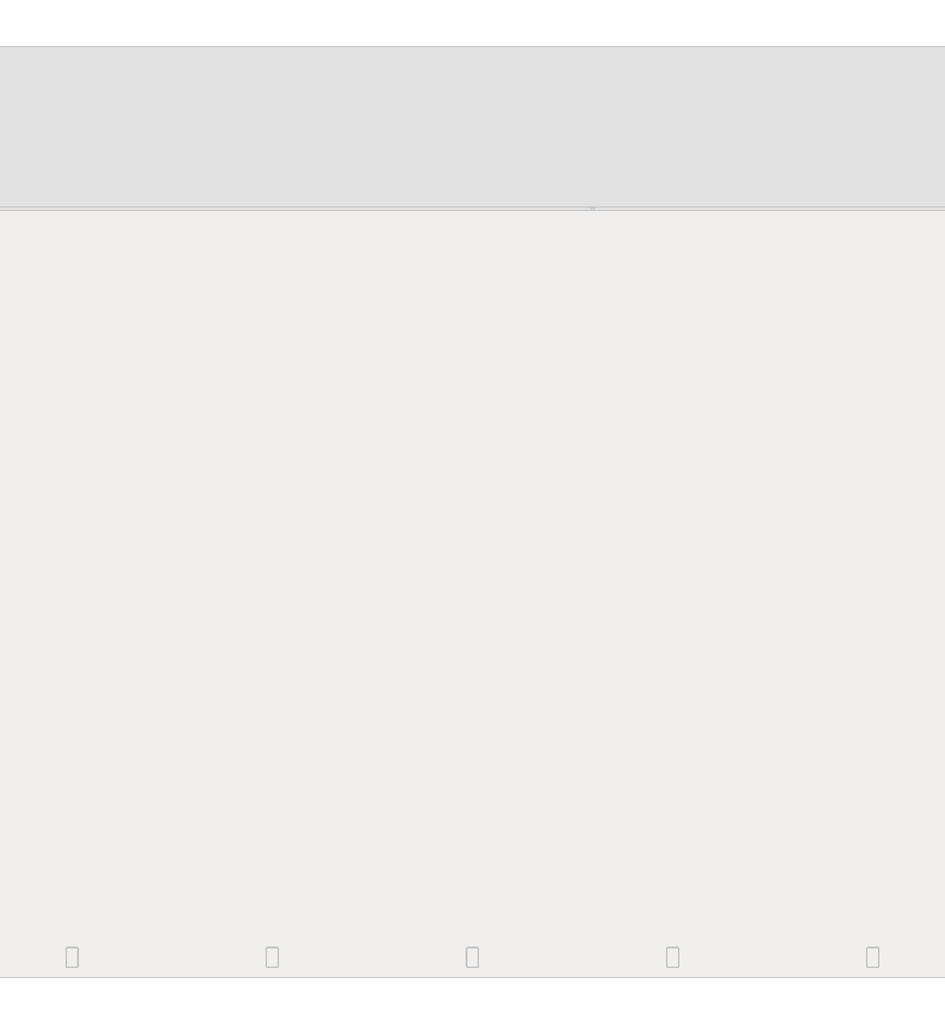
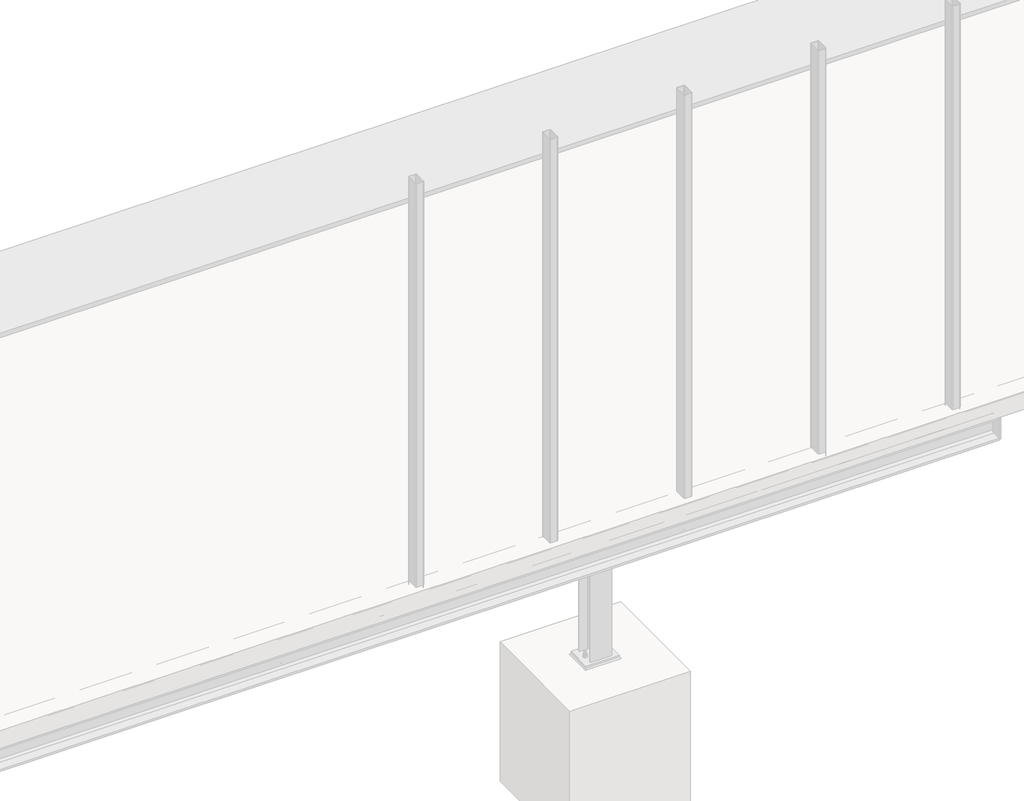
# One storey, part 25 of 36: 1 assembly.
"""IFC4 building model written with IfcOpenShell, lengths in millimetres."""

from ifc_helpers import new_model, si_unit, point, frame, frame_2d, origin, place, context, project, spatial, polyline, circle_curve, trimmed, segment, composite_curve, outline, extrude, element, save

model = new_model("IFC4")

# Units and contexts
model_context = context("Model", 3, world=origin())
ifc_project = project(units=[si_unit("LENGTHUNIT", "METRE", prefix="MILLI")], contexts=[model_context])

# Site, building, storey
site = spatial("IfcSite", under=ifc_project)
building = spatial("IfcBuilding", under=site)
storey = spatial("IfcBuildingStorey", under=building, Name="Základy", Elevation=-1200.0)

# Assembly
placement = place(None, origin())
element("IfcElementAssembly", 1, at=placement, inside=storey, context=model_context, shape_type="SweptSolid", body=[
    extrude(outline(composite_curve([segment(polyline([(-340.0, 6140.0), (-326.0, 6140.0), (-326.0, 6069.25)]), True, "CONTINUOUS"), segment(trimmed(circle_curve(frame_2d((-311.0, 6069.25)), 15.0), [point((-326.0, 6069.25))], [point((-311.0, 6054.25))], True, "CARTESIAN"), True, "CONTINUOUS"), segment(polyline([(-311.0, 6054.25), (-189.0, 6054.25)]), True, "CONTINUOUS"), segment(trimmed(circle_curve(frame_2d((-189.0, 6069.25)), 15.0), [point((-189.0, 6054.25))], [point((-174.0, 6069.25))], True, "CARTESIAN"), True, "CONTINUOUS"), segment(polyline([(-174.0, 6069.25), (-174.0, 6140.0), (-160.0, 6140.0), (-160.0, 5960.0), (-174.0, 5960.0), (-174.0, 6030.75)]), True, "CONTINUOUS"), segment(trimmed(circle_curve(frame_2d((-189.0, 6030.75)), 15.0), [point((-174.0, 6030.75))], [point((-189.0, 6045.75))], True, "CARTESIAN"), True, "CONTINUOUS"), segment(polyline([(-189.0, 6045.75), (-311.0, 6045.75)]), True, "CONTINUOUS"), segment(trimmed(circle_curve(frame_2d((-311.0, 6030.75)), 15.0), [point((-311.0, 6045.75))], [point((-326.0, 6030.75))], True, "CARTESIAN"), True, "CONTINUOUS"), segment(polyline([(-326.0, 6030.75), (-326.0, 5960.0), (-340.0, 5960.0), (-340.0, 6140.0)]), True, "CONTINUOUS")], self_intersect=False)), frame((0.0, 210.0, 0.0), z_axis=(0.0, 1.0, 0.0), x_axis=(0.0, 0.0, 1.0)), (0.0, 0.0, 1.0), 3557.0),
    extrude(outline(polyline([(5960.0, 3775.0), (6140.0, 3775.0), (6140.0, 3767.0), (5960.0, 3767.0), (5960.0, 3775.0)])), frame((0.0, 0.0, -316.0), z_axis=(0.0, 0.0, 1.0), x_axis=(1.0, 0.0, 0.0)), (0.0, 0.0, 1.0), 132.0),
    extrude(outline(polyline([(5950.0, 1200.0), (5950.0, 1320.0), (5960.0, 1320.0), (5960.0, 1200.0), (5950.0, 1200.0)])), frame((0.0, 0.0, -332.0), z_axis=(0.0, 0.0, 1.0), x_axis=(1.0, 0.0, 0.0)), (0.0, 0.0, 1.0), 164.0),
    extrude(outline(polyline([(6140.0, 1200.0), (6140.0, 1320.0), (6150.0, 1320.0), (6150.0, 1200.0), (6140.0, 1200.0)])), frame((0.0, 0.0, -332.0), z_axis=(0.0, 0.0, 1.0), x_axis=(1.0, 0.0, 0.0)), (0.0, 0.0, 1.0), 164.0),
    extrude(outline(composite_curve([segment(polyline([(-174.0, 6140.0), (-174.0, 6079.5)]), True, "CONTINUOUS"), segment(trimmed(circle_curve(frame_2d((-174.0, 6054.5)), 25.0), [point((-174.0, 6079.5))], [point((-199.0, 6054.5))], True, "CARTESIAN"), True, "CONTINUOUS"), segment(polyline([(-199.0, 6054.5), (-301.0, 6054.5)]), True, "CONTINUOUS"), segment(trimmed(circle_curve(frame_2d((-326.0, 6054.5)), 25.0), [point((-301.0, 6054.5))], [point((-326.0, 6079.5))], True, "CARTESIAN"), True, "CONTINUOUS"), segment(polyline([(-326.0, 6079.5), (-326.0, 6140.0), (-174.0, 6140.0)]), True, "CONTINUOUS")], self_intersect=False)), frame((0.0, 1256.0, 0.0), z_axis=(0.0, 1.0, 0.0), x_axis=(0.0, 0.0, 1.0)), (0.0, 0.0, 1.0), 8.0),
    extrude(outline(composite_curve([segment(polyline([(-174.0, 5960.0), (-326.0, 5960.0), (-326.0, 6020.5)]), True, "CONTINUOUS"), segment(trimmed(circle_curve(frame_2d((-326.0, 6045.5)), 25.0), [point((-326.0, 6020.5))], [point((-301.0, 6045.5))], True, "CARTESIAN"), True, "CONTINUOUS"), segment(polyline([(-301.0, 6045.5), (-199.0, 6045.5)]), True, "CONTINUOUS"), segment(trimmed(circle_curve(frame_2d((-174.0, 6045.5)), 25.0), [point((-199.0, 6045.5))], [point((-174.0, 6020.5))], True, "CARTESIAN"), True, "CONTINUOUS"), segment(polyline([(-174.0, 6020.5), (-174.0, 5960.0)]), True, "CONTINUOUS")], self_intersect=False)), frame((0.0, 1256.0, 0.0), z_axis=(0.0, 1.0, 0.0), x_axis=(0.0, 0.0, 1.0)), (0.0, 0.0, 1.0), 8.0),
    extrude(outline(polyline([(5960.0, 210.0), (6140.0, 210.0), (6140.0, 200.0), (5960.0, 200.0), (5960.0, 210.0)])), frame((0.0, 0.0, -332.0), z_axis=(0.0, 0.0, 1.0), x_axis=(1.0, 0.0, 0.0)), (0.0, 0.0, 1.0), 164.0),
    extrude(outline(composite_curve([segment(trimmed(circle_curve(frame_2d((1230.0, -225.0)), 6.5), [point((1230.0, -231.5))], [point((1230.0, -218.5))], False, "CARTESIAN"), True, "CONTINUOUS"), segment(trimmed(circle_curve(frame_2d((1230.0, -225.0)), 6.5), [point((1230.0, -218.5))], [point((1230.0, -231.5))], False, "CARTESIAN"), True, "CONTINUOUS")], self_intersect=False)), frame((5949.9, 0.0, 0.0), z_axis=(1.0, 0.0, 0.0), x_axis=(0.0, 1.0, 0.0)), (0.0, 0.0, 1.0), 10.0),
    extrude(outline(polyline([(1230.0, -235.3923048), (1221.0, -230.1961524), (1221.0, -219.8038476), (1230.0, -214.6076952), (1239.0, -219.8038476), (1239.0, -230.1961524), (1230.0, -235.3923048)])), frame((5962.5, 0.0, 0.0), z_axis=(1.0, 0.0, 0.0), x_axis=(0.0, 1.0, 0.0)), (0.0, 0.0, 1.0), 7.5),
    extrude(outline(composite_curve([segment(trimmed(circle_curve(frame_2d((1230.0, -225.0)), 6.0), [point((1230.0, -231.0))], [point((1230.0, -219.0))], False, "CARTESIAN"), True, "CONTINUOUS"), segment(trimmed(circle_curve(frame_2d((1230.0, -225.0)), 6.0), [point((1230.0, -219.0))], [point((1230.0, -231.0))], False, "CARTESIAN"), True, "CONTINUOUS")], self_intersect=False)), frame((5922.5, 0.0, 0.0), z_axis=(1.0, 0.0, 0.0), x_axis=(0.0, 1.0, 0.0)), (0.0, 0.0, 1.0), 40.0),
    extrude(outline(composite_curve([segment(trimmed(circle_curve(frame_2d((1230.0, -225.0)), 12.0), [point((1230.0, -237.0))], [point((1230.0, -213.0))], False, "CARTESIAN"), True, "CONTINUOUS"), segment(trimmed(circle_curve(frame_2d((1230.0, -225.0)), 12.0), [point((1230.0, -213.0))], [point((1230.0, -237.0))], False, "CARTESIAN"), True, "CONTINUOUS")], self_intersect=False)), frame((5960.0, 0.0, 0.0), z_axis=(1.0, 0.0, 0.0), x_axis=(0.0, 1.0, 0.0)), (0.0, 0.0, 1.0), 2.5),
    extrude(outline(composite_curve([segment(trimmed(circle_curve(frame_2d((1230.0, -225.0)), 12.0), [point((1230.0, -237.0))], [point((1230.0, -213.0))], False, "CARTESIAN"), True, "CONTINUOUS"), segment(trimmed(circle_curve(frame_2d((1230.0, -225.0)), 12.0), [point((1230.0, -213.0))], [point((1230.0, -237.0))], False, "CARTESIAN"), True, "CONTINUOUS")], self_intersect=False)), frame((5937.5, 0.0, 0.0), z_axis=(1.0, 0.0, 0.0), x_axis=(0.0, 1.0, 0.0)), (0.0, 0.0, 1.0), 2.5),
    extrude(outline(polyline([(1230.0, -235.9696551), (1220.5, -230.4848276), (1220.5, -219.5151724), (1230.0, -214.0303449), (1239.5, -219.5151724), (1239.5, -230.4848276), (1230.0, -235.9696551)])), frame((5927.5, 0.0, 0.0), z_axis=(1.0, 0.0, 0.0), x_axis=(0.0, 1.0, 0.0)), (0.0, 0.0, 1.0), 10.0),
    extrude(outline(composite_curve([segment(trimmed(circle_curve(frame_2d((1230.0, -225.0)), 6.5), [point((1230.0, -231.5))], [point((1230.0, -218.5))], False, "CARTESIAN"), True, "CONTINUOUS"), segment(trimmed(circle_curve(frame_2d((1230.0, -225.0)), 6.5), [point((1230.0, -218.5))], [point((1230.0, -231.5))], False, "CARTESIAN"), True, "CONTINUOUS")], self_intersect=False)), frame((5940.0, 0.0, 0.0), z_axis=(1.0, 0.0, 0.0), x_axis=(0.0, 1.0, 0.0)), (0.0, 0.0, 1.0), 10.1),
    extrude(outline(composite_curve([segment(trimmed(circle_curve(frame_2d((1230.0, -275.0)), 6.5), [point((1230.0, -281.5))], [point((1230.0, -268.5))], False, "CARTESIAN"), True, "CONTINUOUS"), segment(trimmed(circle_curve(frame_2d((1230.0, -275.0)), 6.5), [point((1230.0, -268.5))], [point((1230.0, -281.5))], False, "CARTESIAN"), True, "CONTINUOUS")], self_intersect=False)), frame((5949.9, 0.0, 0.0), z_axis=(1.0, 0.0, 0.0), x_axis=(0.0, 1.0, 0.0)), (0.0, 0.0, 1.0), 10.0),
    extrude(outline(polyline([(1230.0, -285.3923048), (1221.0, -280.1961524), (1221.0, -269.8038476), (1230.0, -264.6076952), (1239.0, -269.8038476), (1239.0, -280.1961524), (1230.0, -285.3923048)])), frame((5962.5, 0.0, 0.0), z_axis=(1.0, 0.0, 0.0), x_axis=(0.0, 1.0, 0.0)), (0.0, 0.0, 1.0), 7.5),
    extrude(outline(composite_curve([segment(trimmed(circle_curve(frame_2d((1230.0, -275.0)), 6.0), [point((1230.0, -281.0))], [point((1230.0, -269.0))], False, "CARTESIAN"), True, "CONTINUOUS"), segment(trimmed(circle_curve(frame_2d((1230.0, -275.0)), 6.0), [point((1230.0, -269.0))], [point((1230.0, -281.0))], False, "CARTESIAN"), True, "CONTINUOUS")], self_intersect=False)), frame((5922.5, 0.0, 0.0), z_axis=(1.0, 0.0, 0.0), x_axis=(0.0, 1.0, 0.0)), (0.0, 0.0, 1.0), 40.0),
    extrude(outline(composite_curve([segment(trimmed(circle_curve(frame_2d((1230.0, -275.0)), 12.0), [point((1230.0, -287.0))], [point((1230.0, -263.0))], False, "CARTESIAN"), True, "CONTINUOUS"), segment(trimmed(circle_curve(frame_2d((1230.0, -275.0)), 12.0), [point((1230.0, -263.0))], [point((1230.0, -287.0))], False, "CARTESIAN"), True, "CONTINUOUS")], self_intersect=False)), frame((5960.0, 0.0, 0.0), z_axis=(1.0, 0.0, 0.0), x_axis=(0.0, 1.0, 0.0)), (0.0, 0.0, 1.0), 2.5),
    extrude(outline(composite_curve([segment(trimmed(circle_curve(frame_2d((1230.0, -275.0)), 12.0), [point((1230.0, -287.0))], [point((1230.0, -263.0))], False, "CARTESIAN"), True, "CONTINUOUS"), segment(trimmed(circle_curve(frame_2d((1230.0, -275.0)), 12.0), [point((1230.0, -263.0))], [point((1230.0, -287.0))], False, "CARTESIAN"), True, "CONTINUOUS")], self_intersect=False)), frame((5937.5, 0.0, 0.0), z_axis=(1.0, 0.0, 0.0), x_axis=(0.0, 1.0, 0.0)), (0.0, 0.0, 1.0), 2.5),
    extrude(outline(polyline([(1230.0, -285.9696551), (1220.5, -280.4848276), (1220.5, -269.5151724), (1230.0, -264.0303449), (1239.5, -269.5151724), (1239.5, -280.4848276), (1230.0, -285.9696551)])), frame((5927.5, 0.0, 0.0), z_axis=(1.0, 0.0, 0.0), x_axis=(0.0, 1.0, 0.0)), (0.0, 0.0, 1.0), 10.0),
    extrude(outline(composite_curve([segment(trimmed(circle_curve(frame_2d((1230.0, -275.0)), 6.5), [point((1230.0, -281.5))], [point((1230.0, -268.5))], False, "CARTESIAN"), True, "CONTINUOUS"), segment(trimmed(circle_curve(frame_2d((1230.0, -275.0)), 6.5), [point((1230.0, -268.5))], [point((1230.0, -281.5))], False, "CARTESIAN"), True, "CONTINUOUS")], self_intersect=False)), frame((5940.0, 0.0, 0.0), z_axis=(1.0, 0.0, 0.0), x_axis=(0.0, 1.0, 0.0)), (0.0, 0.0, 1.0), 10.1),
    extrude(outline(composite_curve([segment(trimmed(circle_curve(frame_2d((1290.0, -225.0)), 6.5), [point((1290.0, -231.5))], [point((1290.0, -218.5))], False, "CARTESIAN"), True, "CONTINUOUS"), segment(trimmed(circle_curve(frame_2d((1290.0, -225.0)), 6.5), [point((1290.0, -218.5))], [point((1290.0, -231.5))], False, "CARTESIAN"), True, "CONTINUOUS")], self_intersect=False)), frame((5949.9, 0.0, 0.0), z_axis=(1.0, 0.0, 0.0), x_axis=(0.0, 1.0, 0.0)), (0.0, 0.0, 1.0), 10.0),
    extrude(outline(polyline([(1290.0, -235.3923048), (1281.0, -230.1961524), (1281.0, -219.8038476), (1290.0, -214.6076952), (1299.0, -219.8038476), (1299.0, -230.1961524), (1290.0, -235.3923048)])), frame((5962.5, 0.0, 0.0), z_axis=(1.0, 0.0, 0.0), x_axis=(0.0, 1.0, 0.0)), (0.0, 0.0, 1.0), 7.5),
    extrude(outline(composite_curve([segment(trimmed(circle_curve(frame_2d((1290.0, -225.0)), 6.0), [point((1290.0, -231.0))], [point((1290.0, -219.0))], False, "CARTESIAN"), True, "CONTINUOUS"), segment(trimmed(circle_curve(frame_2d((1290.0, -225.0)), 6.0), [point((1290.0, -219.0))], [point((1290.0, -231.0))], False, "CARTESIAN"), True, "CONTINUOUS")], self_intersect=False)), frame((5922.5, 0.0, 0.0), z_axis=(1.0, 0.0, 0.0), x_axis=(0.0, 1.0, 0.0)), (0.0, 0.0, 1.0), 40.0),
    extrude(outline(composite_curve([segment(trimmed(circle_curve(frame_2d((1290.0, -225.0)), 12.0), [point((1290.0, -237.0))], [point((1290.0, -213.0))], False, "CARTESIAN"), True, "CONTINUOUS"), segment(trimmed(circle_curve(frame_2d((1290.0, -225.0)), 12.0), [point((1290.0, -213.0))], [point((1290.0, -237.0))], False, "CARTESIAN"), True, "CONTINUOUS")], self_intersect=False)), frame((5960.0, 0.0, 0.0), z_axis=(1.0, 0.0, 0.0), x_axis=(0.0, 1.0, 0.0)), (0.0, 0.0, 1.0), 2.5),
    extrude(outline(composite_curve([segment(trimmed(circle_curve(frame_2d((1290.0, -225.0)), 12.0), [point((1290.0, -237.0))], [point((1290.0, -213.0))], False, "CARTESIAN"), True, "CONTINUOUS"), segment(trimmed(circle_curve(frame_2d((1290.0, -225.0)), 12.0), [point((1290.0, -213.0))], [point((1290.0, -237.0))], False, "CARTESIAN"), True, "CONTINUOUS")], self_intersect=False)), frame((5937.5, 0.0, 0.0), z_axis=(1.0, 0.0, 0.0), x_axis=(0.0, 1.0, 0.0)), (0.0, 0.0, 1.0), 2.5),
    extrude(outline(polyline([(1290.0, -235.9696551), (1280.5, -230.4848276), (1280.5, -219.5151724), (1290.0, -214.0303449), (1299.5, -219.5151724), (1299.5, -230.4848276), (1290.0, -235.9696551)])), frame((5927.5, 0.0, 0.0), z_axis=(1.0, 0.0, 0.0), x_axis=(0.0, 1.0, 0.0)), (0.0, 0.0, 1.0), 10.0),
    extrude(outline(composite_curve([segment(trimmed(circle_curve(frame_2d((1290.0, -225.0)), 6.5), [point((1290.0, -231.5))], [point((1290.0, -218.5))], False, "CARTESIAN"), True, "CONTINUOUS"), segment(trimmed(circle_curve(frame_2d((1290.0, -225.0)), 6.5), [point((1290.0, -218.5))], [point((1290.0, -231.5))], False, "CARTESIAN"), True, "CONTINUOUS")], self_intersect=False)), frame((5940.0, 0.0, 0.0), z_axis=(1.0, 0.0, 0.0), x_axis=(0.0, 1.0, 0.0)), (0.0, 0.0, 1.0), 10.1),
    extrude(outline(composite_curve([segment(trimmed(circle_curve(frame_2d((1290.0, -275.0)), 6.5), [point((1290.0, -281.5))], [point((1290.0, -268.5))], False, "CARTESIAN"), True, "CONTINUOUS"), segment(trimmed(circle_curve(frame_2d((1290.0, -275.0)), 6.5), [point((1290.0, -268.5))], [point((1290.0, -281.5))], False, "CARTESIAN"), True, "CONTINUOUS")], self_intersect=False)), frame((5949.9, 0.0, 0.0), z_axis=(1.0, 0.0, 0.0), x_axis=(0.0, 1.0, 0.0)), (0.0, 0.0, 1.0), 10.0),
    extrude(outline(polyline([(1290.0, -285.3923048), (1281.0, -280.1961524), (1281.0, -269.8038476), (1290.0, -264.6076952), (1299.0, -269.8038476), (1299.0, -280.1961524), (1290.0, -285.3923048)])), frame((5962.5, 0.0, 0.0), z_axis=(1.0, 0.0, 0.0), x_axis=(0.0, 1.0, 0.0)), (0.0, 0.0, 1.0), 7.5),
    extrude(outline(composite_curve([segment(trimmed(circle_curve(frame_2d((1290.0, -275.0)), 6.0), [point((1290.0, -281.0))], [point((1290.0, -269.0))], False, "CARTESIAN"), True, "CONTINUOUS"), segment(trimmed(circle_curve(frame_2d((1290.0, -275.0)), 6.0), [point((1290.0, -269.0))], [point((1290.0, -281.0))], False, "CARTESIAN"), True, "CONTINUOUS")], self_intersect=False)), frame((5922.5, 0.0, 0.0), z_axis=(1.0, 0.0, 0.0), x_axis=(0.0, 1.0, 0.0)), (0.0, 0.0, 1.0), 40.0),
    extrude(outline(composite_curve([segment(trimmed(circle_curve(frame_2d((1290.0, -275.0)), 12.0), [point((1290.0, -287.0))], [point((1290.0, -263.0))], False, "CARTESIAN"), True, "CONTINUOUS"), segment(trimmed(circle_curve(frame_2d((1290.0, -275.0)), 12.0), [point((1290.0, -263.0))], [point((1290.0, -287.0))], False, "CARTESIAN"), True, "CONTINUOUS")], self_intersect=False)), frame((5960.0, 0.0, 0.0), z_axis=(1.0, 0.0, 0.0), x_axis=(0.0, 1.0, 0.0)), (0.0, 0.0, 1.0), 2.5),
    extrude(outline(composite_curve([segment(trimmed(circle_curve(frame_2d((1290.0, -275.0)), 12.0), [point((1290.0, -287.0))], [point((1290.0, -263.0))], False, "CARTESIAN"), True, "CONTINUOUS"), segment(trimmed(circle_curve(frame_2d((1290.0, -275.0)), 12.0), [point((1290.0, -263.0))], [point((1290.0, -287.0))], False, "CARTESIAN"), True, "CONTINUOUS")], self_intersect=False)), frame((5937.5, 0.0, 0.0), z_axis=(1.0, 0.0, 0.0), x_axis=(0.0, 1.0, 0.0)), (0.0, 0.0, 1.0), 2.5),
    extrude(outline(polyline([(1290.0, -285.9696551), (1280.5, -280.4848276), (1280.5, -269.5151724), (1290.0, -264.0303449), (1299.5, -269.5151724), (1299.5, -280.4848276), (1290.0, -285.9696551)])), frame((5927.5, 0.0, 0.0), z_axis=(1.0, 0.0, 0.0), x_axis=(0.0, 1.0, 0.0)), (0.0, 0.0, 1.0), 10.0),
    extrude(outline(composite_curve([segment(trimmed(circle_curve(frame_2d((1290.0, -275.0)), 6.5), [point((1290.0, -281.5))], [point((1290.0, -268.5))], False, "CARTESIAN"), True, "CONTINUOUS"), segment(trimmed(circle_curve(frame_2d((1290.0, -275.0)), 6.5), [point((1290.0, -268.5))], [point((1290.0, -281.5))], False, "CARTESIAN"), True, "CONTINUOUS")], self_intersect=False)), frame((5940.0, 0.0, 0.0), z_axis=(1.0, 0.0, 0.0), x_axis=(0.0, 1.0, 0.0)), (0.0, 0.0, 1.0), 10.1),
    extrude(outline(composite_curve([segment(trimmed(circle_curve(frame_2d((1230.0, -225.0)), 6.5), [point((1230.0, -231.5))], [point((1230.0, -218.5))], False, "CARTESIAN"), True, "CONTINUOUS"), segment(trimmed(circle_curve(frame_2d((1230.0, -225.0)), 6.5), [point((1230.0, -218.5))], [point((1230.0, -231.5))], False, "CARTESIAN"), True, "CONTINUOUS")], self_intersect=False)), frame((6140.1, 0.0, 0.0), z_axis=(1.0, 0.0, 0.0), x_axis=(0.0, 1.0, 0.0)), (0.0, 0.0, 1.0), 10.0),
    extrude(outline(polyline([(1230.0, -235.3923048), (1221.0, -230.1961524), (1221.0, -219.8038476), (1230.0, -214.6076952), (1239.0, -219.8038476), (1239.0, -230.1961524), (1230.0, -235.3923048)])), frame((6130.0, 0.0, 0.0), z_axis=(1.0, 0.0, 0.0), x_axis=(0.0, 1.0, 0.0)), (0.0, 0.0, 1.0), 7.5),
    extrude(outline(composite_curve([segment(trimmed(circle_curve(frame_2d((1230.0, -225.0)), 6.0), [point((1230.0, -231.0))], [point((1230.0, -219.0))], False, "CARTESIAN"), True, "CONTINUOUS"), segment(trimmed(circle_curve(frame_2d((1230.0, -225.0)), 6.0), [point((1230.0, -219.0))], [point((1230.0, -231.0))], False, "CARTESIAN"), True, "CONTINUOUS")], self_intersect=False)), frame((6137.5, 0.0, 0.0), z_axis=(1.0, 0.0, 0.0), x_axis=(0.0, 1.0, 0.0)), (0.0, 0.0, 1.0), 40.0),
    extrude(outline(composite_curve([segment(trimmed(circle_curve(frame_2d((1230.0, -225.0)), 12.0), [point((1230.0, -237.0))], [point((1230.0, -213.0))], False, "CARTESIAN"), True, "CONTINUOUS"), segment(trimmed(circle_curve(frame_2d((1230.0, -225.0)), 12.0), [point((1230.0, -213.0))], [point((1230.0, -237.0))], False, "CARTESIAN"), True, "CONTINUOUS")], self_intersect=False)), frame((6137.5, 0.0, 0.0), z_axis=(1.0, 0.0, 0.0), x_axis=(0.0, 1.0, 0.0)), (0.0, 0.0, 1.0), 2.5),
    extrude(outline(composite_curve([segment(trimmed(circle_curve(frame_2d((1230.0, -225.0)), 12.0), [point((1230.0, -237.0))], [point((1230.0, -213.0))], False, "CARTESIAN"), True, "CONTINUOUS"), segment(trimmed(circle_curve(frame_2d((1230.0, -225.0)), 12.0), [point((1230.0, -213.0))], [point((1230.0, -237.0))], False, "CARTESIAN"), True, "CONTINUOUS")], self_intersect=False)), frame((6160.0, 0.0, 0.0), z_axis=(1.0, 0.0, 0.0), x_axis=(0.0, 1.0, 0.0)), (0.0, 0.0, 1.0), 2.5),
    extrude(outline(polyline([(1230.0, -235.9696551), (1220.5, -230.4848276), (1220.5, -219.5151724), (1230.0, -214.0303449), (1239.5, -219.5151724), (1239.5, -230.4848276), (1230.0, -235.9696551)])), frame((6162.5, 0.0, 0.0), z_axis=(1.0, 0.0, 0.0), x_axis=(0.0, 1.0, 0.0)), (0.0, 0.0, 1.0), 10.0),
    extrude(outline(composite_curve([segment(trimmed(circle_curve(frame_2d((1230.0, -225.0)), 6.5), [point((1230.0, -231.5))], [point((1230.0, -218.5))], False, "CARTESIAN"), True, "CONTINUOUS"), segment(trimmed(circle_curve(frame_2d((1230.0, -225.0)), 6.5), [point((1230.0, -218.5))], [point((1230.0, -231.5))], False, "CARTESIAN"), True, "CONTINUOUS")], self_intersect=False)), frame((6149.9, 0.0, 0.0), z_axis=(1.0, 0.0, 0.0), x_axis=(0.0, 1.0, 0.0)), (0.0, 0.0, 1.0), 10.1),
    extrude(outline(composite_curve([segment(trimmed(circle_curve(frame_2d((1230.0, -275.0)), 6.5), [point((1230.0, -281.5))], [point((1230.0, -268.5))], False, "CARTESIAN"), True, "CONTINUOUS"), segment(trimmed(circle_curve(frame_2d((1230.0, -275.0)), 6.5), [point((1230.0, -268.5))], [point((1230.0, -281.5))], False, "CARTESIAN"), True, "CONTINUOUS")], self_intersect=False)), frame((6140.1, 0.0, 0.0), z_axis=(1.0, 0.0, 0.0), x_axis=(0.0, 1.0, 0.0)), (0.0, 0.0, 1.0), 10.0),
    extrude(outline(polyline([(1230.0, -285.3923048), (1221.0, -280.1961524), (1221.0, -269.8038476), (1230.0, -264.6076952), (1239.0, -269.8038476), (1239.0, -280.1961524), (1230.0, -285.3923048)])), frame((6130.0, 0.0, 0.0), z_axis=(1.0, 0.0, 0.0), x_axis=(0.0, 1.0, 0.0)), (0.0, 0.0, 1.0), 7.5),
    extrude(outline(composite_curve([segment(trimmed(circle_curve(frame_2d((1230.0, -275.0)), 6.0), [point((1230.0, -281.0))], [point((1230.0, -269.0))], False, "CARTESIAN"), True, "CONTINUOUS"), segment(trimmed(circle_curve(frame_2d((1230.0, -275.0)), 6.0), [point((1230.0, -269.0))], [point((1230.0, -281.0))], False, "CARTESIAN"), True, "CONTINUOUS")], self_intersect=False)), frame((6137.5, 0.0, 0.0), z_axis=(1.0, 0.0, 0.0), x_axis=(0.0, 1.0, 0.0)), (0.0, 0.0, 1.0), 40.0),
    extrude(outline(composite_curve([segment(trimmed(circle_curve(frame_2d((1230.0, -275.0)), 12.0), [point((1230.0, -287.0))], [point((1230.0, -263.0))], False, "CARTESIAN"), True, "CONTINUOUS"), segment(trimmed(circle_curve(frame_2d((1230.0, -275.0)), 12.0), [point((1230.0, -263.0))], [point((1230.0, -287.0))], False, "CARTESIAN"), True, "CONTINUOUS")], self_intersect=False)), frame((6137.5, 0.0, 0.0), z_axis=(1.0, 0.0, 0.0), x_axis=(0.0, 1.0, 0.0)), (0.0, 0.0, 1.0), 2.5),
    extrude(outline(composite_curve([segment(trimmed(circle_curve(frame_2d((1230.0, -275.0)), 12.0), [point((1230.0, -287.0))], [point((1230.0, -263.0))], False, "CARTESIAN"), True, "CONTINUOUS"), segment(trimmed(circle_curve(frame_2d((1230.0, -275.0)), 12.0), [point((1230.0, -263.0))], [point((1230.0, -287.0))], False, "CARTESIAN"), True, "CONTINUOUS")], self_intersect=False)), frame((6160.0, 0.0, 0.0), z_axis=(1.0, 0.0, 0.0), x_axis=(0.0, 1.0, 0.0)), (0.0, 0.0, 1.0), 2.5),
    extrude(outline(polyline([(1230.0, -285.9696551), (1220.5, -280.4848276), (1220.5, -269.5151724), (1230.0, -264.0303449), (1239.5, -269.5151724), (1239.5, -280.4848276), (1230.0, -285.9696551)])), frame((6162.5, 0.0, 0.0), z_axis=(1.0, 0.0, 0.0), x_axis=(0.0, 1.0, 0.0)), (0.0, 0.0, 1.0), 10.0),
    extrude(outline(composite_curve([segment(trimmed(circle_curve(frame_2d((1230.0, -275.0)), 6.5), [point((1230.0, -281.5))], [point((1230.0, -268.5))], False, "CARTESIAN"), True, "CONTINUOUS"), segment(trimmed(circle_curve(frame_2d((1230.0, -275.0)), 6.5), [point((1230.0, -268.5))], [point((1230.0, -281.5))], False, "CARTESIAN"), True, "CONTINUOUS")], self_intersect=False)), frame((6149.9, 0.0, 0.0), z_axis=(1.0, 0.0, 0.0), x_axis=(0.0, 1.0, 0.0)), (0.0, 0.0, 1.0), 10.1),
    extrude(outline(composite_curve([segment(trimmed(circle_curve(frame_2d((1290.0, -225.0)), 6.5), [point((1290.0, -231.5))], [point((1290.0, -218.5))], False, "CARTESIAN"), True, "CONTINUOUS"), segment(trimmed(circle_curve(frame_2d((1290.0, -225.0)), 6.5), [point((1290.0, -218.5))], [point((1290.0, -231.5))], False, "CARTESIAN"), True, "CONTINUOUS")], self_intersect=False)), frame((6140.1, 0.0, 0.0), z_axis=(1.0, 0.0, 0.0), x_axis=(0.0, 1.0, 0.0)), (0.0, 0.0, 1.0), 10.0),
    extrude(outline(polyline([(1290.0, -235.3923048), (1281.0, -230.1961524), (1281.0, -219.8038476), (1290.0, -214.6076952), (1299.0, -219.8038476), (1299.0, -230.1961524), (1290.0, -235.3923048)])), frame((6130.0, 0.0, 0.0), z_axis=(1.0, 0.0, 0.0), x_axis=(0.0, 1.0, 0.0)), (0.0, 0.0, 1.0), 7.5),
    extrude(outline(composite_curve([segment(trimmed(circle_curve(frame_2d((1290.0, -225.0)), 6.0), [point((1290.0, -231.0))], [point((1290.0, -219.0))], False, "CARTESIAN"), True, "CONTINUOUS"), segment(trimmed(circle_curve(frame_2d((1290.0, -225.0)), 6.0), [point((1290.0, -219.0))], [point((1290.0, -231.0))], False, "CARTESIAN"), True, "CONTINUOUS")], self_intersect=False)), frame((6137.5, 0.0, 0.0), z_axis=(1.0, 0.0, 0.0), x_axis=(0.0, 1.0, 0.0)), (0.0, 0.0, 1.0), 40.0),
    extrude(outline(composite_curve([segment(trimmed(circle_curve(frame_2d((1290.0, -225.0)), 12.0), [point((1290.0, -237.0))], [point((1290.0, -213.0))], False, "CARTESIAN"), True, "CONTINUOUS"), segment(trimmed(circle_curve(frame_2d((1290.0, -225.0)), 12.0), [point((1290.0, -213.0))], [point((1290.0, -237.0))], False, "CARTESIAN"), True, "CONTINUOUS")], self_intersect=False)), frame((6137.5, 0.0, 0.0), z_axis=(1.0, 0.0, 0.0), x_axis=(0.0, 1.0, 0.0)), (0.0, 0.0, 1.0), 2.5),
    extrude(outline(composite_curve([segment(trimmed(circle_curve(frame_2d((1290.0, -225.0)), 12.0), [point((1290.0, -237.0))], [point((1290.0, -213.0))], False, "CARTESIAN"), True, "CONTINUOUS"), segment(trimmed(circle_curve(frame_2d((1290.0, -225.0)), 12.0), [point((1290.0, -213.0))], [point((1290.0, -237.0))], False, "CARTESIAN"), True, "CONTINUOUS")], self_intersect=False)), frame((6160.0, 0.0, 0.0), z_axis=(1.0, 0.0, 0.0), x_axis=(0.0, 1.0, 0.0)), (0.0, 0.0, 1.0), 2.5),
    extrude(outline(polyline([(1290.0, -235.9696551), (1280.5, -230.4848276), (1280.5, -219.5151724), (1290.0, -214.0303449), (1299.5, -219.5151724), (1299.5, -230.4848276), (1290.0, -235.9696551)])), frame((6162.5, 0.0, 0.0), z_axis=(1.0, 0.0, 0.0), x_axis=(0.0, 1.0, 0.0)), (0.0, 0.0, 1.0), 10.0),
    extrude(outline(composite_curve([segment(trimmed(circle_curve(frame_2d((1290.0, -225.0)), 6.5), [point((1290.0, -231.5))], [point((1290.0, -218.5))], False, "CARTESIAN"), True, "CONTINUOUS"), segment(trimmed(circle_curve(frame_2d((1290.0, -225.0)), 6.5), [point((1290.0, -218.5))], [point((1290.0, -231.5))], False, "CARTESIAN"), True, "CONTINUOUS")], self_intersect=False)), frame((6149.9, 0.0, 0.0), z_axis=(1.0, 0.0, 0.0), x_axis=(0.0, 1.0, 0.0)), (0.0, 0.0, 1.0), 10.1),
    extrude(outline(composite_curve([segment(trimmed(circle_curve(frame_2d((1290.0, -275.0)), 6.5), [point((1290.0, -281.5))], [point((1290.0, -268.5))], False, "CARTESIAN"), True, "CONTINUOUS"), segment(trimmed(circle_curve(frame_2d((1290.0, -275.0)), 6.5), [point((1290.0, -268.5))], [point((1290.0, -281.5))], False, "CARTESIAN"), True, "CONTINUOUS")], self_intersect=False)), frame((6140.1, 0.0, 0.0), z_axis=(1.0, 0.0, 0.0), x_axis=(0.0, 1.0, 0.0)), (0.0, 0.0, 1.0), 10.0),
    extrude(outline(polyline([(1290.0, -285.3923048), (1281.0, -280.1961524), (1281.0, -269.8038476), (1290.0, -264.6076952), (1299.0, -269.8038476), (1299.0, -280.1961524), (1290.0, -285.3923048)])), frame((6130.0, 0.0, 0.0), z_axis=(1.0, 0.0, 0.0), x_axis=(0.0, 1.0, 0.0)), (0.0, 0.0, 1.0), 7.5),
    extrude(outline(composite_curve([segment(trimmed(circle_curve(frame_2d((1290.0, -275.0)), 6.0), [point((1290.0, -281.0))], [point((1290.0, -269.0))], False, "CARTESIAN"), True, "CONTINUOUS"), segment(trimmed(circle_curve(frame_2d((1290.0, -275.0)), 6.0), [point((1290.0, -269.0))], [point((1290.0, -281.0))], False, "CARTESIAN"), True, "CONTINUOUS")], self_intersect=False)), frame((6137.5, 0.0, 0.0), z_axis=(1.0, 0.0, 0.0), x_axis=(0.0, 1.0, 0.0)), (0.0, 0.0, 1.0), 40.0),
    extrude(outline(composite_curve([segment(trimmed(circle_curve(frame_2d((1290.0, -275.0)), 12.0), [point((1290.0, -287.0))], [point((1290.0, -263.0))], False, "CARTESIAN"), True, "CONTINUOUS"), segment(trimmed(circle_curve(frame_2d((1290.0, -275.0)), 12.0), [point((1290.0, -263.0))], [point((1290.0, -287.0))], False, "CARTESIAN"), True, "CONTINUOUS")], self_intersect=False)), frame((6137.5, 0.0, 0.0), z_axis=(1.0, 0.0, 0.0), x_axis=(0.0, 1.0, 0.0)), (0.0, 0.0, 1.0), 2.5),
    extrude(outline(composite_curve([segment(trimmed(circle_curve(frame_2d((1290.0, -275.0)), 12.0), [point((1290.0, -287.0))], [point((1290.0, -263.0))], False, "CARTESIAN"), True, "CONTINUOUS"), segment(trimmed(circle_curve(frame_2d((1290.0, -275.0)), 12.0), [point((1290.0, -263.0))], [point((1290.0, -287.0))], False, "CARTESIAN"), True, "CONTINUOUS")], self_intersect=False)), frame((6160.0, 0.0, 0.0), z_axis=(1.0, 0.0, 0.0), x_axis=(0.0, 1.0, 0.0)), (0.0, 0.0, 1.0), 2.5),
    extrude(outline(polyline([(1290.0, -285.9696551), (1280.5, -280.4848276), (1280.5, -269.5151724), (1290.0, -264.0303449), (1299.5, -269.5151724), (1299.5, -280.4848276), (1290.0, -285.9696551)])), frame((6162.5, 0.0, 0.0), z_axis=(1.0, 0.0, 0.0), x_axis=(0.0, 1.0, 0.0)), (0.0, 0.0, 1.0), 10.0),
    extrude(outline(composite_curve([segment(trimmed(circle_curve(frame_2d((1290.0, -275.0)), 6.5), [point((1290.0, -281.5))], [point((1290.0, -268.5))], False, "CARTESIAN"), True, "CONTINUOUS"), segment(trimmed(circle_curve(frame_2d((1290.0, -275.0)), 6.5), [point((1290.0, -268.5))], [point((1290.0, -281.5))], False, "CARTESIAN"), True, "CONTINUOUS")], self_intersect=False)), frame((6149.9, 0.0, 0.0), z_axis=(1.0, 0.0, 0.0), x_axis=(0.0, 1.0, 0.0)), (0.0, 0.0, 1.0), 10.1),
])

save(model, "model.ifc")
